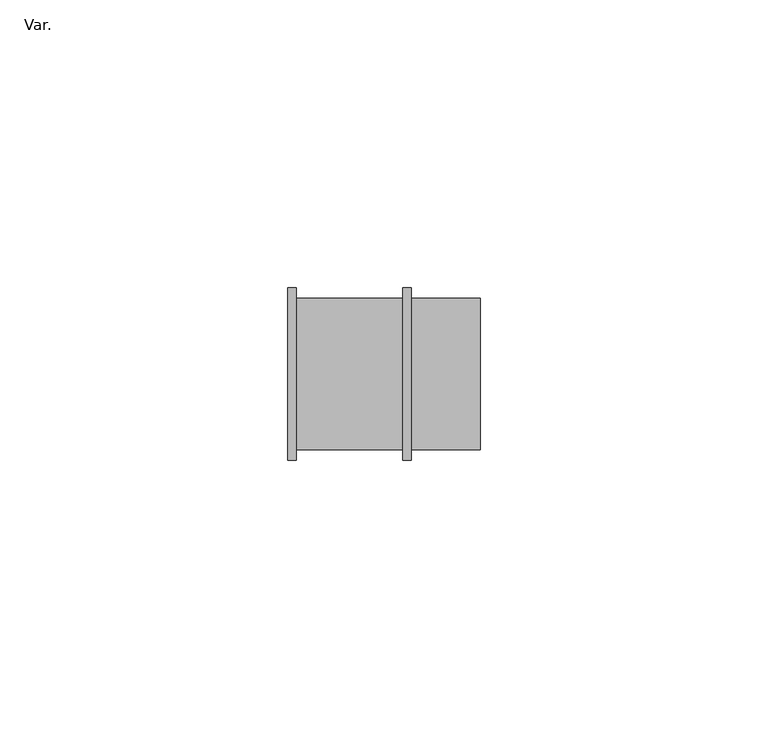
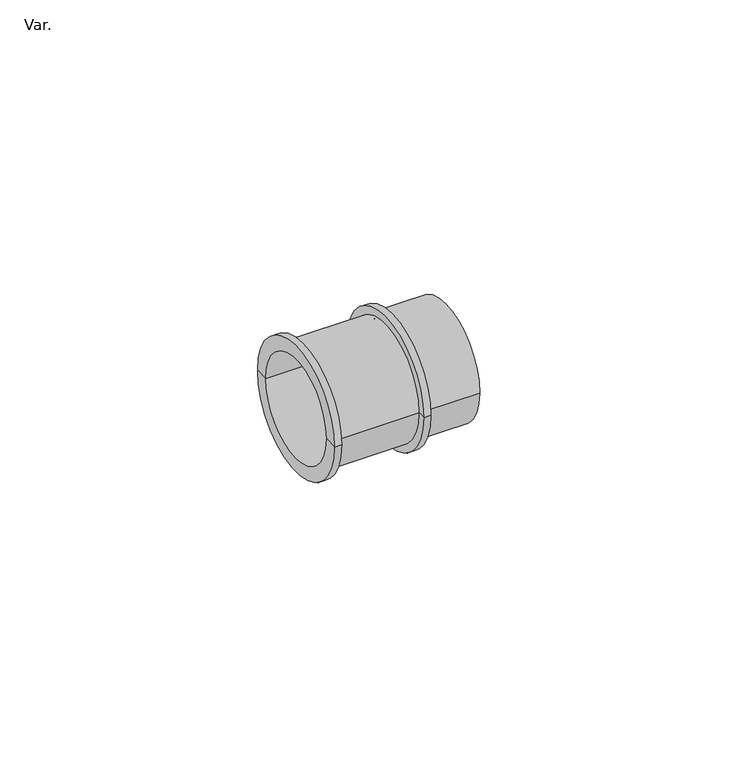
"""IFC4 building model written with IfcOpenShell, lengths in millimetres: cable carrier fitting geometry, PlastigamaWavin_Unionesdetubo_ConduitZNoUsarConector : Var.."""

from ifc_helpers import new_model, si_unit, frame, origin, place, context, project, spatial, polyline, circle_curve, source, transform, mapped, element, save
from ifc_brep_helpers import plane_surface, cylinder_surface, revolved_surface, advanced_brep


def var_64fc13f4(model_context):
    return source(origin(), model_context, "Body", "AdvancedBrep", [
        advanced_brep(
        [(0.75, -11.8, 0.0), (0.75, 11.8, 0.0), (-20.75, 11.8, 0.0), (-20.75, -11.8, 0.0), (0.75, -10.0, 0.0), (0.75, 10.0, 0.0), (12.75, -10.0, 0.0), (12.75, 10.0, 0.0), (12.75, -13.2, 0.0), (12.75, 13.2, 0.0), (0.75, -13.2, 0.0), (0.75, 13.2, 0.0), (0.75, -15.0, 0.0), (0.75, 15.0, 0.0), (-0.75, -15.0, 0.0), (-0.75, 15.0, 0.0), (-0.75, -13.2, 0.0), (-0.75, 13.2, 0.0), (-19.25, -13.2, 0.0), (-19.25, 13.2, 0.0), (-19.25, -15.0, 0.0), (-19.25, 15.0, 0.0), (-20.75, -15.0, 0.0), (-20.75, 15.0, 0.0)],
        [
            (0, 1, circle_curve(frame((0.75, 0.0, 0.0), z_axis=(1.0, 0.0, 0.0), x_axis=(0.0, 1.0, 0.0)), 11.8)),
            (1, 2),
            (2, 3, circle_curve(frame((-20.75, 0.0, 0.0), z_axis=(-1.0, 0.0, 0.0), x_axis=(0.0, 1.0, 0.0)), 11.8)),
            (3, 0),
            (1, 0, circle_curve(frame((0.75, 0.0, 0.0), z_axis=(1.0, 0.0, 0.0), x_axis=(0.0, 1.0, 0.0)), 11.8)),
            (3, 2, circle_curve(frame((-20.75, 0.0, 0.0), z_axis=(-1.0, 0.0, 0.0), x_axis=(0.0, 1.0, 0.0)), 11.8)),
            (4, 5, circle_curve(frame((0.75, 0.0, 0.0), z_axis=(1.0, 0.0, 0.0), x_axis=(0.0, 1.0, 0.0)), 10.0)),
            (5, 1),
            (0, 4),
            (5, 4, circle_curve(frame((0.75, 0.0, 0.0), z_axis=(1.0, 0.0, 0.0), x_axis=(0.0, 1.0, 0.0)), 10.0)),
            (6, 7, circle_curve(frame((12.75, 0.0, 0.0), z_axis=(1.0, 0.0, 0.0), x_axis=(0.0, 1.0, 0.0)), 10.0)),
            (7, 5),
            (4, 6),
            (7, 6, circle_curve(frame((12.75, 0.0, 0.0), z_axis=(1.0, 0.0, 0.0), x_axis=(0.0, 1.0, 0.0)), 10.0)),
            (8, 9, circle_curve(frame((12.75, 0.0, 0.0), z_axis=(1.0, 0.0, 0.0), x_axis=(0.0, 1.0, 0.0)), 13.2)),
            (9, 7),
            (6, 8),
            (9, 8, circle_curve(frame((12.75, 0.0, 0.0), z_axis=(1.0, 0.0, 0.0), x_axis=(0.0, 1.0, 0.0)), 13.2)),
            (10, 11, circle_curve(frame((0.75, 0.0, 0.0), z_axis=(1.0, 0.0, 0.0), x_axis=(0.0, 1.0, 0.0)), 13.2)),
            (11, 9),
            (8, 10),
            (11, 10, circle_curve(frame((0.75, 0.0, 0.0), z_axis=(1.0, 0.0, 0.0), x_axis=(0.0, 1.0, 0.0)), 13.2)),
            (12, 13, circle_curve(frame((0.75, 0.0, 0.0), z_axis=(1.0, 0.0, 0.0), x_axis=(0.0, 1.0, 0.0)), 15.0)),
            (13, 11),
            (10, 12),
            (13, 12, circle_curve(frame((0.75, 0.0, 0.0), z_axis=(1.0, 0.0, 0.0), x_axis=(0.0, 1.0, 0.0)), 15.0)),
            (14, 15, circle_curve(frame((-0.75, 0.0, 0.0), z_axis=(1.0, 0.0, 0.0), x_axis=(0.0, 1.0, 0.0)), 15.0)),
            (15, 13),
            (12, 14),
            (15, 14, circle_curve(frame((-0.75, 0.0, 0.0), z_axis=(1.0, 0.0, 0.0), x_axis=(0.0, 1.0, 0.0)), 15.0)),
            (16, 17, circle_curve(frame((-0.75, 0.0, 0.0), z_axis=(1.0, 0.0, 0.0), x_axis=(0.0, 1.0, 0.0)), 13.2)),
            (17, 15),
            (14, 16),
            (17, 16, circle_curve(frame((-0.75, 0.0, 0.0), z_axis=(1.0, 0.0, 0.0), x_axis=(0.0, 1.0, 0.0)), 13.2)),
            (18, 19, circle_curve(frame((-19.25, 0.0, 0.0), z_axis=(1.0, 0.0, 0.0), x_axis=(0.0, 1.0, 0.0)), 13.2)),
            (19, 17),
            (16, 18),
            (19, 18, circle_curve(frame((-19.25, 0.0, 0.0), z_axis=(1.0, 0.0, 0.0), x_axis=(0.0, 1.0, 0.0)), 13.2)),
            (20, 21, circle_curve(frame((-19.25, 0.0, 0.0), z_axis=(1.0, 0.0, 0.0), x_axis=(0.0, 1.0, 0.0)), 15.0)),
            (21, 19),
            (18, 20),
            (21, 20, circle_curve(frame((-19.25, 0.0, 0.0), z_axis=(1.0, 0.0, 0.0), x_axis=(0.0, 1.0, 0.0)), 15.0)),
            (22, 23, circle_curve(frame((-20.75, 0.0, 0.0), z_axis=(1.0, 0.0, 0.0), x_axis=(0.0, 1.0, 0.0)), 15.0)),
            (23, 21),
            (20, 22),
            (23, 22, circle_curve(frame((-20.75, 0.0, 0.0), z_axis=(1.0, 0.0, 0.0), x_axis=(0.0, 1.0, 0.0)), 15.0)),
            (2, 23),
            (22, 3),
        ],
        [
            revolved_surface(polyline([(-20.75, 11.8, 0.0), (0.75, 11.8, 0.0)]), (1999.9, 0.0, 0.0), (-1.0, 0.0, 0.0)),
            plane_surface(frame((0.75, 0.0, 0.0), z_axis=(-1.0, 0.0, 0.0), x_axis=(0.0, 1.0, 0.0))),
            revolved_surface(polyline([(0.75, 10.0, 0.0), (12.75, 10.0, 0.0)]), (1999.9, 0.0, 0.0), (-1.0, 0.0, 0.0)),
            plane_surface(frame((12.75, 0.0, 0.0), z_axis=(1.0, 0.0, 0.0), x_axis=(0.0, 1.0, 0.0))),
            cylinder_surface(frame((1999.9, 0.0, 0.0), z_axis=(-1.0, 0.0, 0.0), x_axis=(0.0, 1.0, 0.0)), 13.2),
            plane_surface(frame((0.75, 0.0, 0.0), z_axis=(1.0, 0.0, 0.0), x_axis=(0.0, 1.0, 0.0))),
            cylinder_surface(frame((1999.9, 0.0, 0.0), z_axis=(-1.0, 0.0, 0.0), x_axis=(0.0, 1.0, 0.0)), 15.0),
            plane_surface(frame((-0.75, 0.0, 0.0), z_axis=(-1.0, 0.0, 0.0), x_axis=(0.0, 1.0, 0.0))),
            plane_surface(frame((-19.25, 0.0, 0.0), z_axis=(1.0, 0.0, 0.0), x_axis=(0.0, 1.0, 0.0))),
            plane_surface(frame((-20.75, 0.0, 0.0), z_axis=(-1.0, 0.0, 0.0), x_axis=(0.0, 1.0, 0.0))),
        ],
        [
            (0, [[1, 2, 3, 4]]),
            (0, [[5, -4, 6, -2]]),
            (1, [[7, 8, -1, 9]]),
            (1, [[10, -9, -5, -8]]),
            (2, [[11, 12, -7, 13]]),
            (2, [[14, -13, -10, -12]]),
            (3, [[15, 16, -11, 17]]),
            (3, [[18, -17, -14, -16]]),
            (4, [[19, 20, -15, 21]]),
            (4, [[22, -21, -18, -20]]),
            (5, [[23, 24, -19, 25]]),
            (5, [[26, -25, -22, -24]]),
            (6, [[27, 28, -23, 29]]),
            (6, [[30, -29, -26, -28]]),
            (7, [[31, 32, -27, 33]]),
            (7, [[34, -33, -30, -32]]),
            (4, [[35, 36, -31, 37]]),
            (4, [[38, -37, -34, -36]]),
            (8, [[39, 40, -35, 41]]),
            (8, [[42, -41, -38, -40]]),
            (6, [[43, 44, -39, 45]]),
            (6, [[46, -45, -42, -44]]),
            (9, [[-3, 47, -43, 48]]),
            (9, [[-6, -48, -46, -47]]),
        ],
    ),
    ])


if __name__ == "__main__":
    model = new_model("IFC4")
    model_context = context("Model", 3, world=origin())
    ifc_project = project(units=[si_unit("LENGTHUNIT", "METRE", prefix="MILLI")], contexts=[model_context])
    site = spatial("IfcSite", under=ifc_project)
    building = spatial("IfcBuilding", under=site)
    placement = place(None, origin())
    var_shape = var_64fc13f4(model_context)
    element("IfcCableCarrierFitting", 1, ObjectType="PlastigamaWavin_Unionesdetubo_ConduitZNoUsarConector : Var.", at=placement, inside=building, context=model_context, shape_type="MappedRepresentation", body=[
        mapped(var_shape, transform((0.0, 0.0, 0.0), x_axis=(1.0, 0.0, 0.0), y_axis=(0.0, 1.0, 0.0), z_axis=(0.0, 0.0, 1.0))),
    ])
    save(model, "model.ifc")
